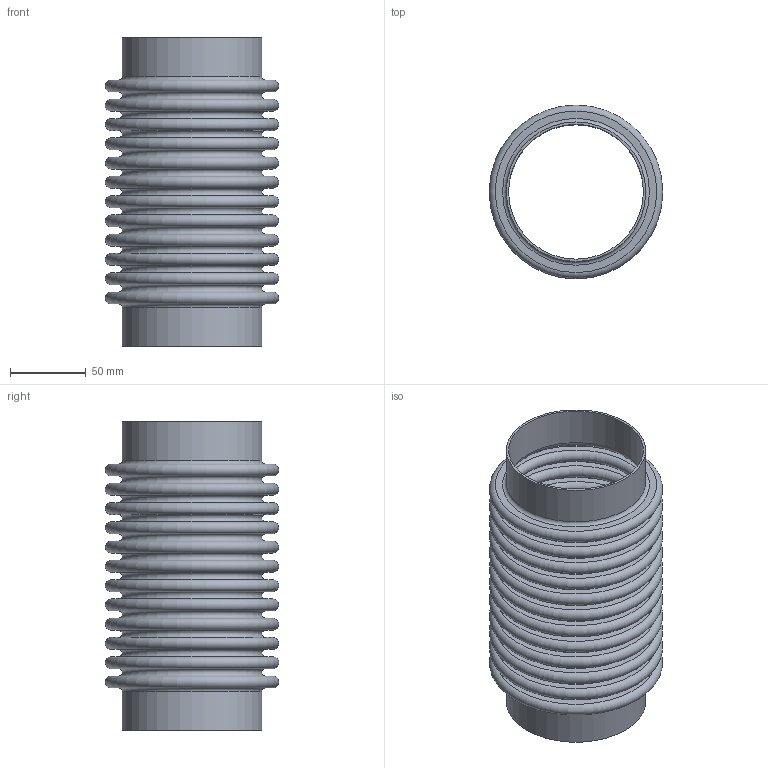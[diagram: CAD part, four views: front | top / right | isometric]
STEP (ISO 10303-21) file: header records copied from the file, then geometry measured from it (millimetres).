
FILE_DESCRIPTION(/* description */ ('STOCK BELLOWS: U.S-3-12-300L, 3.500 I.D., 4.500 O.D., 2 PLY, 22 GA (0.030 THICK), 12 CONS., 0.500 PITCH, 1.000 TANGENT. '),/* implementation_level */ '2;1');
FILE_NAME(/* name */ 'STOCK BELLOW - US-3-12-300L.stp',/* time_stamp */ '2026-07-21T13:25:33-05:00',/* author */ ('KennethB'),/* organization */ (''),/* preprocessor_version */ 'ST-DEVELOPER v20.1',/* originating_system */ 'Autodesk Inventor 2026',/* authorisation */ '');
FILE_SCHEMA (('AUTOMOTIVE_DESIGN { 1 0 10303 214 3 1 1 }'));
Length unit declared in the file: inch
Products named in the file (1): STOCK BELLOW - US-3-12-300L
Bounding box: 114.3 x 114.3 x 203.2 mm (x, y, z)
Volume: 194782.6 mm3; surface area: 258217.8 mm2
Topology: 3 solids, 3 shells, 108 faces, 162 edges, 109 vertices
Faces by surface type: plane 54, torus 50, cylinder 4
Full cylindrical faces by diameter (mm): 88.9 x2, 91.948 x2
Entity records: 2550 total; most frequent: DIRECTION 538, CARTESIAN_POINT 380, ORIENTED_EDGE 324, AXIS2_PLACEMENT_3D 267, EDGE_LOOP 162, EDGE_CURVE 162, CIRCLE 158, FACE_OUTER_BOUND 108
